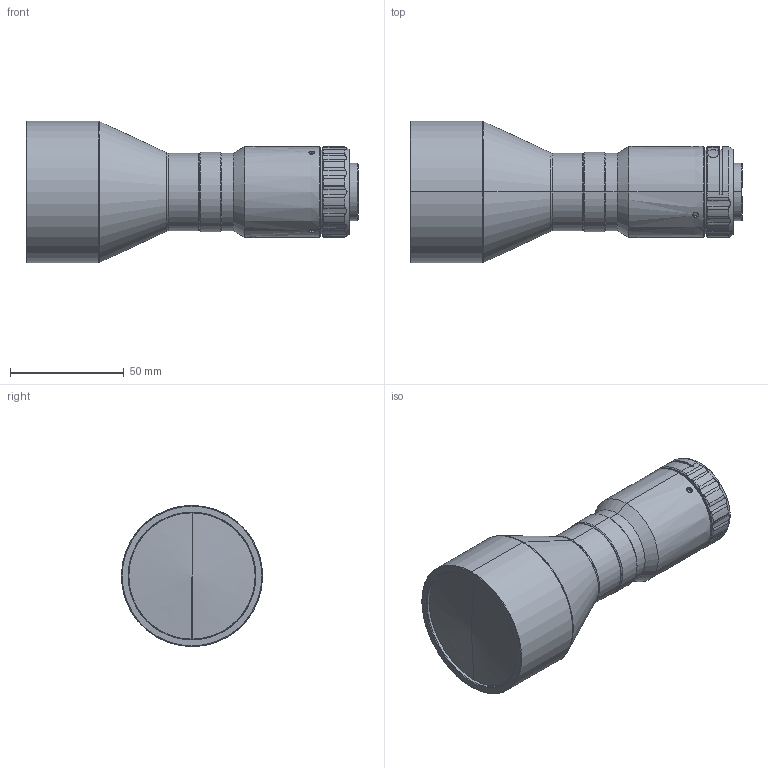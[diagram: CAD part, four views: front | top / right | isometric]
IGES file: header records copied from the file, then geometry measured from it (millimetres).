
Start section: SolidWorks IGES file using analytic representation for surfaces
Global section: file name: D:\----      产品2016.1.20\DTC\DTCM\F+B\－－ AL   可调后截距\42 -C不用可调\DTCM110-42-AL\3D\DTCM110-42-AL.IGS; native system: SolidWorks 2012; preprocessor: SolidWorks 2012; author: frank; date: 180914.164338; units: millimetre
Bounding box: 145.86 x 62 x 62 mm (x, y, z)
Surface area: 26296.3 mm2 (no closed solid volume)
Topology: 0 solids, 0 shells, 122 faces, 1986 edges, 1980 vertices
Faces by surface type: revolution 101, bspline 21
